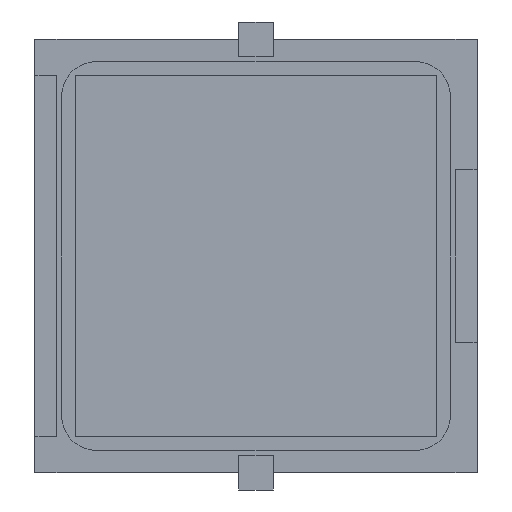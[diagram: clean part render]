
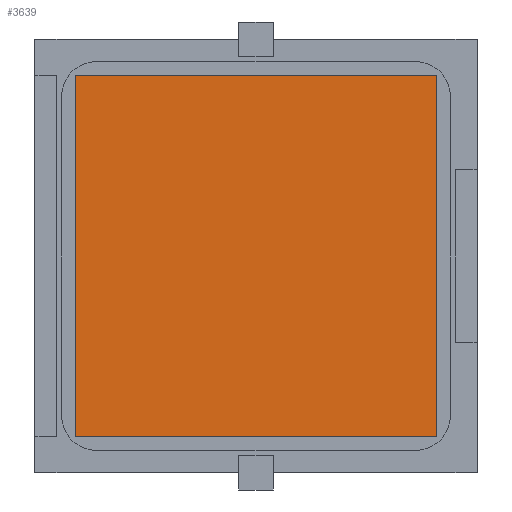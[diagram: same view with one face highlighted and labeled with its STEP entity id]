
A CAD part, front view. The second image highlights one B-rep face of the part: STEP entity #3639.
In plain terms, the highlighted planar face has unit normal (0, -1, 0).
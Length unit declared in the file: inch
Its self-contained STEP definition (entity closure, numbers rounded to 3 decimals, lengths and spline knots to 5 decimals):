
#138 = LINE ( 'NONE', #1516, #3581 ) ;
#349 = ORIENTED_EDGE ( 'NONE', *, *, #2704, .F. ) ;
#478 = VERTEX_POINT ( 'NONE', #559 ) ;
#559 = CARTESIAN_POINT ( 'NONE',  ( 0.41339, -0.005, -0.41339 ) ) ;
#1345 = PLANE ( 'NONE',  #4194 ) ;
#1516 = CARTESIAN_POINT ( 'NONE',  ( -0.41339, -0.005, -0.41339 ) ) ;
#1996 = VECTOR ( 'NONE', #2828, 39.37008 ) ;
#1998 = VECTOR ( 'NONE', #5417, 39.37008 ) ;
#2334 = ORIENTED_EDGE ( 'NONE', *, *, #5328, .F. ) ;
#2454 = EDGE_LOOP ( 'NONE', ( #3928, #2334, #349, #4390 ) ) ;
#2704 = EDGE_CURVE ( 'NONE', #3591, #478, #5817, .T. ) ;
#2706 = LINE ( 'NONE', #4641, #1996 ) ;
#2828 = DIRECTION ( 'NONE',  ( 1., 0., 0. ) ) ;
#3224 = DIRECTION ( 'NONE',  ( -1., 0., 0. ) ) ;
#3236 = CARTESIAN_POINT ( 'NONE',  ( -0.41339, -0.005, 0.41339 ) ) ;
#3346 = DIRECTION ( 'NONE',  ( 0., 0., 1. ) ) ;
#3581 = VECTOR ( 'NONE', #3346, 39.37008 ) ;
#3591 = VERTEX_POINT ( 'NONE', #4035 ) ;
#3639 = ADVANCED_FACE ( 'NONE', ( #4254 ), #1345, .F. ) ;
#3770 = DIRECTION ( 'NONE',  ( 0., 0., 1. ) ) ;
#3811 = EDGE_CURVE ( 'NONE', #5494, #5290, #138, .T. ) ;
#3928 = ORIENTED_EDGE ( 'NONE', *, *, #3811, .F. ) ;
#4035 = CARTESIAN_POINT ( 'NONE',  ( 0.41339, -0.005, 0.41339 ) ) ;
#4174 = CARTESIAN_POINT ( 'NONE',  ( -0.41339, -0.005, -0.41339 ) ) ;
#4194 = AXIS2_PLACEMENT_3D ( 'NONE', #3236, #5181, #3770 ) ;
#4254 = FACE_OUTER_BOUND ( 'NONE', #2454, .T. ) ;
#4390 = ORIENTED_EDGE ( 'NONE', *, *, #5519, .F. ) ;
#4441 = CARTESIAN_POINT ( 'NONE',  ( 0.41339, -0.005, -0.41339 ) ) ;
#4561 = CARTESIAN_POINT ( 'NONE',  ( -0.41339, -0.005, 0.41339 ) ) ;
#4641 = CARTESIAN_POINT ( 'NONE',  ( -0.41339, -0.005, 0.41339 ) ) ;
#5025 = VECTOR ( 'NONE', #3224, 39.37008 ) ;
#5046 = LINE ( 'NONE', #4174, #5025 ) ;
#5181 = DIRECTION ( 'NONE',  ( 0., 1., 0. ) ) ;
#5290 = VERTEX_POINT ( 'NONE', #4561 ) ;
#5328 = EDGE_CURVE ( 'NONE', #478, #5494, #5046, .T. ) ;
#5417 = DIRECTION ( 'NONE',  ( 0., 0., -1. ) ) ;
#5494 = VERTEX_POINT ( 'NONE', #5538 ) ;
#5519 = EDGE_CURVE ( 'NONE', #5290, #3591, #2706, .T. ) ;
#5538 = CARTESIAN_POINT ( 'NONE',  ( -0.41339, -0.005, -0.41339 ) ) ;
#5817 = LINE ( 'NONE', #4441, #1998 ) ;
